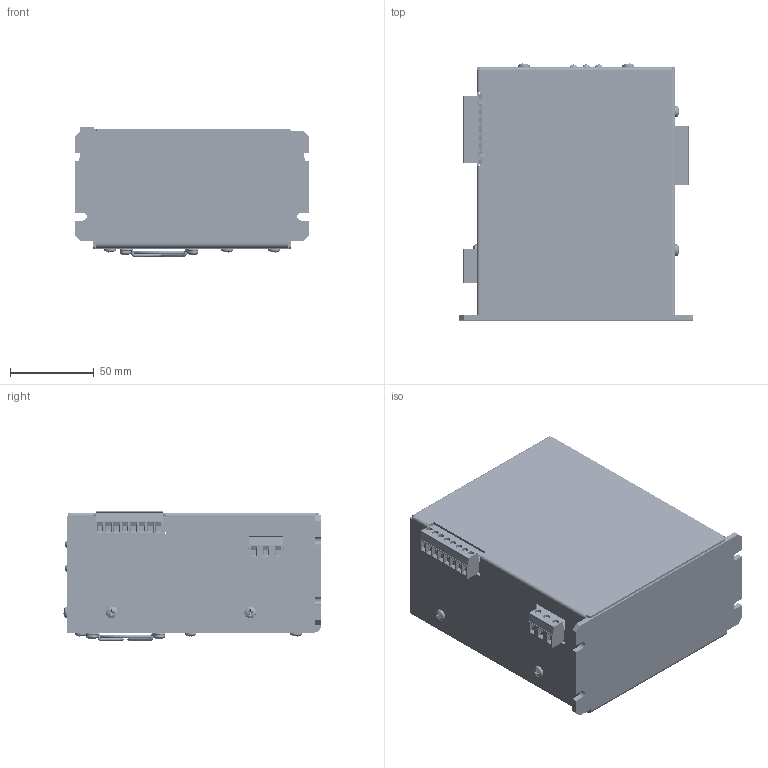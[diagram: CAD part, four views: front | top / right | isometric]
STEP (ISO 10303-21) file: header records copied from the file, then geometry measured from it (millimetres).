
FILE_DESCRIPTION (( 'STEP AP214' ), '1' );
FILE_NAME ('MLA05641.STEP', '2012-10-22T20:47:03', ( '' ), ( '' ), 'SwSTEP 2.0', 'SolidWorks 2012', '' );
FILE_SCHEMA (( 'AUTOMOTIVE_DESIGN' ));
Length unit declared in the file: inch
Products named in the file (52): 1754562; 1766916; 1766893; 1pan cross head_ai_CR-PHMS 0.138-32x0.25x0.25-S; Cover, MLA05641; AA4981A-1PCB; CON-0049; CON-0064; SWT-BP04YT_SWT-BP04YT; LED-RA Series_LED-0005; LED-RA Series_LED-0001; POT-0018; 1757527; AA4981APCB; SUB-AA5995-1; Standoff, 4-40x.187_4-40 X .500; STD-63212H-M-F_STD-63212H; Standoff, 6-32x.250_STD-632112H; TPE-661001001674-1.0X3.625; TPE-661001001674-1.0X4.25; pan cross head_ai_CR-PHMS 0.138-32x0.375x0.375-S; TRS-IRGP4062DPbF; pan cross head_ai_CR-PHMS 0.112-40x0.25x0.25-S; WSH-KE3049; TRC-BTB24-600BWRG; ICS-LM35DT_; VRG-TL783CKC; DIO-KBU8G_Long pins; CON-0063; CON-0038; LED-RA Series_LED-0002; 1766372; 1766356; CAP-0203; CAP-0209; FUS-5MMTYPE; CLP-44FH052; RES-3W-.05; pan cross head_ai_CR-PHMS 0.138-32x0.5x0.5-S; Standoff, 6-32x.250, ROUND_6-32 x .250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
Assembly tree (110 placements, depth 3):
  MLA05641
    Base Plate, MLA05641
      Base Plate, MLA05641
      flush stud_pmi_PEM FH-632-6 ZI--S  x2
    FAN-GUARD50MM
    FAN-0008
    pan cross head_ai_CR-PHMS 0.138-32x1x1-S  x4
    PWR-F1100BB06
    internal tooth-lock washers_ai_Internal Tooth LW Type A-0.138  x6
    2machine screw nut hex_ai_MSHXNUT 0.138-32-D-S  x6
    SUB-AA5995-1
      AA5995PCB
      Heat Sink, MLA05641
      Standoff, 6-32x.250, ROUND_6-32 x .250  x2
      pan cross head_ai_CR-PHMS 0.138-32x0.5x0.5-S  x3
      RES-3W-.05  x4
      CLP-44FH052  x2
      FUS-5MMTYPE
      CAP-0209
      CAP-0203  x2
      1766356
      1766372
      LED-RA Series_LED-0002
      CON-0038
      CON-0063
      DIO-KBU8G_Long pins
      VRG-TL783CKC
      ICS-LM35DT_
      TRC-BTB24-600BWRG
      WSH-KE3049  x3
      pan cross head_ai_CR-PHMS 0.112-40x0.25x0.25-S  x4
      TRS-IRGP4062DPbF  x8
      pan cross head_ai_CR-PHMS 0.138-32x0.375x0.375-S  x9
      TPE-661001001674-1.0X4.25
      TPE-661001001674-1.0X3.625
      Standoff, 6-32x.250_STD-632112H  x3
      STD-63212H-M-F_STD-63212H  x2
      Standoff, 4-40x.187_4-40 X .500
    pan cross head_ai_CR-PHMS 0.138-32x0.375x0.375-S  x8
    AA4981A-1PCB
      AA4981APCB
      1757527
      POT-0018
      LED-RA Series_LED-0001
      LED-RA Series_LED-0005
      SWT-BP04YT_SWT-BP04YT
      CON-0064
      CON-0049
    pan cross head_ai_CR-PHMS 0.112-40x0.25x0.25-S
    Cover, MLA05641
    1pan cross head_ai_CR-PHMS 0.138-32x0.25x0.25-S  x6
    1766893
    1766916
    1754562
Bounding box: 139.7 x 153.17 x 77.26 mm (x, y, z)
Volume: 371041.6 mm3; surface area: 304162 mm2
Topology: 114 solids, 114 shells, 11451 faces, 28961 edges, 18229 vertices
Faces by surface type: plane 5456, cylinder 2723, cone 2386, bspline 551, torus 262, sphere 73
Entity records: 318104 total; most frequent: CARTESIAN_POINT 65522, ORIENTED_EDGE 35888, DIRECTION 34282, EDGE_CURVE 17944, VECTOR 12378, LINE 12378, VERTEX_POINT 11374, AXIS2_PLACEMENT_3D 10952
